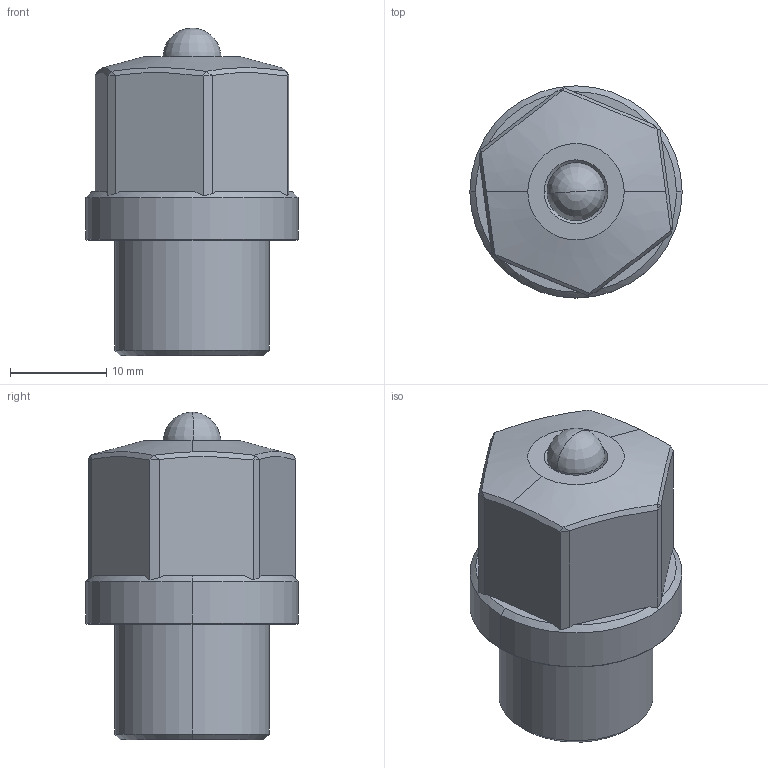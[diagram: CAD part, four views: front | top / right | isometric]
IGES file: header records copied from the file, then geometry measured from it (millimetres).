
Start section: SolidWorks IGES file using analytic representation for surfaces
Global section: file name: F:\TO4C-THREADED BODY-PUSHER\TO4C-M161.IGS; native system: SolidWorks 2019; preprocessor: SolidWorks 2019; author: ADMIN; date: 200710.113616; units: millimetre
Bounding box: 22 x 22 x 33.97 mm (x, y, z)
Volume: 8132.3 mm3; surface area: 3343 mm2
Topology: 2 solids, 2 shells, 67 faces, 146 edges, 85 vertices
Faces by surface type: plane 31, revolution 30, bspline 6
